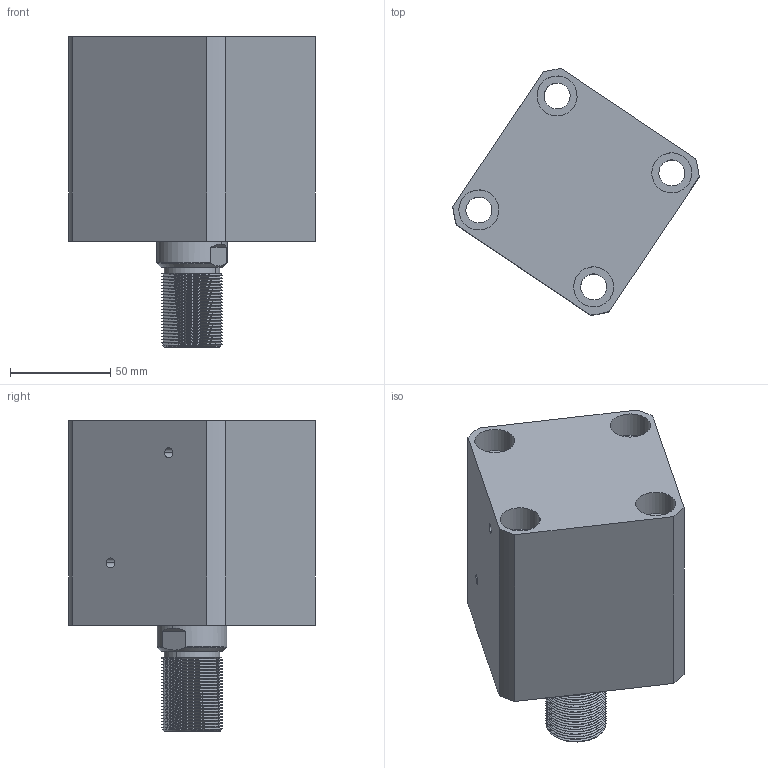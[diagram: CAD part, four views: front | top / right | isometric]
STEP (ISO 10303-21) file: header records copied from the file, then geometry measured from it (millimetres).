
FILE_DESCRIPTION (( 'STEP AP214' ), '1' );
FILE_NAME ('chtb-sdma63x35w_asm.STEP', '2018-05-18T09:21:13', ( 'Windows' ), ( 'Microsoft' ), 'SwSTEP 2.0', 'SolidWorks 2015', '' );
FILE_SCHEMA (( 'AUTOMOTIVE_DESIGN' ));
Length unit declared in the file: millimetre
Products named in the file (4): CHTB-SDMA63X35NBT; CHTB63X35WHSG; CHTB-63QG; chtb-sdma63x35w_asm
Assembly tree (3 placements, depth 2):
  chtb-sdma63x35w_asm
    CHTB-63QG
    CHTB63X35WHSG
    CHTB-SDMA63X35NBT
Bounding box: 123.11 x 123.11 x 155 mm (x, y, z)
Volume: 781262.9 mm3; surface area: 137870.9 mm2
Topology: 3 solids, 3 shells, 219 faces, 632 edges, 430 vertices
Faces by surface type: cylinder 156, plane 34, bspline 14, cone 9, torus 6
Entity records: 22297 total; most frequent: CARTESIAN_POINT 17024, ORIENTED_EDGE 1256, DIRECTION 878, EDGE_CURVE 628, VERTEX_POINT 430, AXIS2_PLACEMENT_3D 343, EDGE_LOOP 252, FACE_OUTER_BOUND 219
